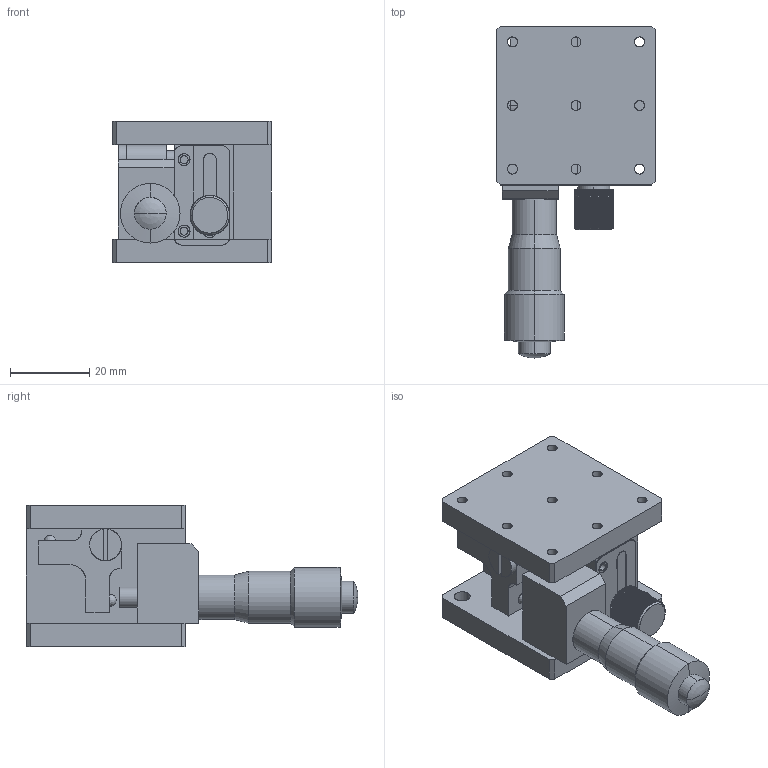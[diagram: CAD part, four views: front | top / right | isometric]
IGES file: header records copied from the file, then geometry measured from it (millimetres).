
Start section: SolidWorks IGES file using analytic representation for surfaces
Bounding box: 40 x 83.5 x 35.7 mm (x, y, z)
Surface area: 22731.9 mm2 (no closed solid volume)
Topology: 0 solids, 0 shells, 506 faces, 4893 edges, 4888 vertices
Faces by surface type: bspline 297, revolution 209
